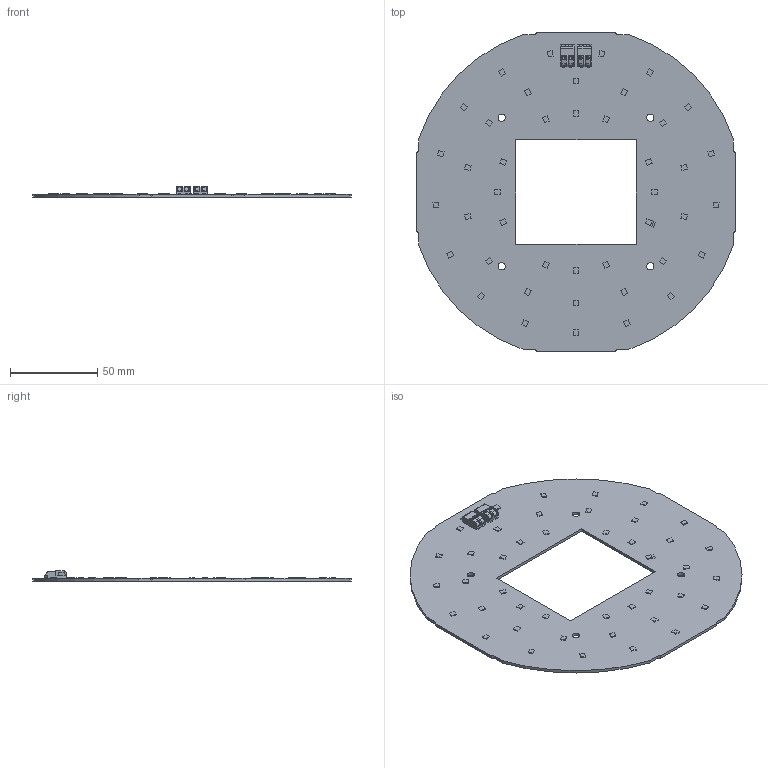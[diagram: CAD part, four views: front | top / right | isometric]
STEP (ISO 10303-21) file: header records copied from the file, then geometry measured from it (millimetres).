
FILE_DESCRIPTION((''),'2;1');
FILE_NAME('16208890_CLE-190-EM-SO-ADV5','2021-11-03T12:23:18',('Bernhard.Fink'),(''),'CREO PARAMETRIC BY PTC INC, 2019164','CREO PARAMETRIC BY PTC INC, 2019164','');
FILE_SCHEMA(('CONFIG_CONTROL_DESIGN'));
Length unit declared in the file: millimetre
Products named in the file (1): 16208890_CLE-190-EM-SO-ADV5
Bounding box: 182 x 182 x 6.15 mm (x, y, z)
Volume: 39606.7 mm3; surface area: 49912 mm2
Topology: 1 solids, 1 shells, 620 faces, 1690 edges, 1124 vertices
Faces by surface type: plane 488, cylinder 128, sphere 4
Entity records: 21872 total; most frequent: CARTESIAN_POINT 5888, ORIENTED_EDGE 3380, DIRECTION 3158, EDGE_CURVE 1690, VECTOR 1378, LINE 1378, VERTEX_POINT 1124, AXIS2_PLACEMENT_3D 890
